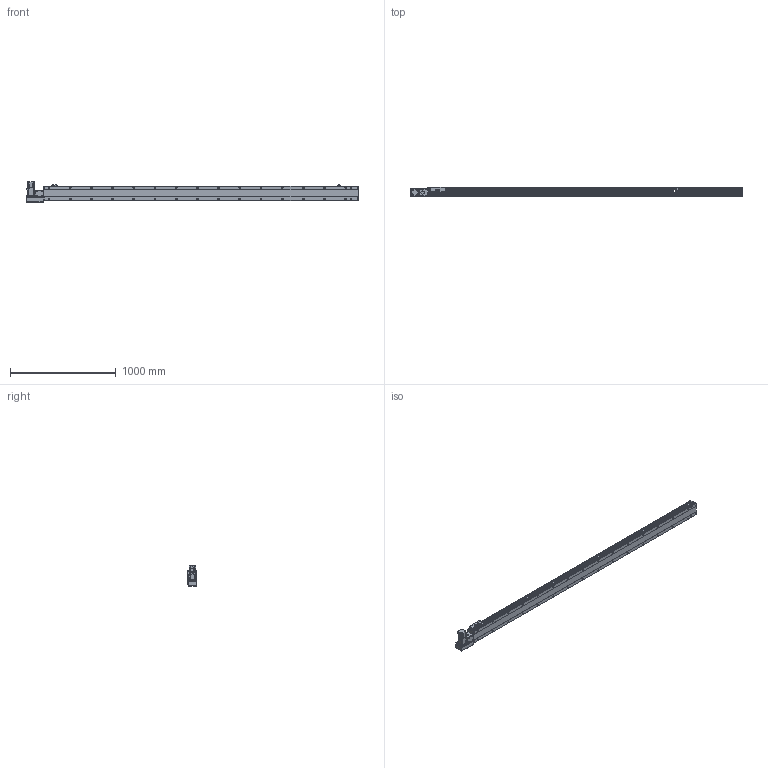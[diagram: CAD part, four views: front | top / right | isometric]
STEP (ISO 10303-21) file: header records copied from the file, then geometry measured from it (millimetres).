
FILE_DESCRIPTION( ( 'STEP AP214' ), '1' );
FILE_NAME( 'x:/temp/worker_6/temp/exporttempdir_5396_34_gnjqI/format_0/PBS140S-P40-S2700-L-T40-C1-N(0).stp', '2022-06-09T00:05:07', ( 'License CC BY-ND 4.0' ), ( 'CADENAS' ), ' ', 'PARTsolutions', ' ' );
FILE_SCHEMA( ( 'AUTOMOTIVE_DESIGN { 1 0 10303 214 1 1 1 1 }' ) );
Length unit declared in the file: millimetre
Products named in the file (7): PBS140S-P40-S2700-L-T40-C1-N(0); _PBS140S-S2700()_body; _PBS140ST-L_motors; _T40-p1; _PBS140S_sliser; _PBS140S_plant; _PBS140S_sensor
Assembly tree (8 placements, depth 2):
  PBS140S-P40-S2700-L-T40-C1-N(0)
    _PBS140S-S2700()_body
    _PBS140ST-L_motors
    _T40-p1
    _PBS140S_sliser
    _PBS140S_plant
    _PBS140S_sensor  x3
Bounding box: 3133 x 93 x 189.7 mm (x, y, z)
Volume: 14779103.6 mm3; surface area: 2486560.9 mm2
Topology: 8 solids, 8 shells, 1227 faces, 3231 edges, 2113 vertices
Faces by surface type: plane 750, cylinder 409, cone 58, sphere 8, torus 2
Full cylindrical faces by diameter (mm): 3.242 x4, 4 x2, 4.134 x4, 4.4 x8, 4.5 x2, 4.8 x4, 4.917 x40, 5.5 x7, 6 x2, 7 x34, 7.5 x8, 8 x12, 8.5 x4, 10.5 x32, 14 x1, 30 x2, 50 x2
Entity records: 45472 total; most frequent: CARTESIAN_POINT 7750, DIRECTION 5908, ORIENTED_EDGE 5542, EDGE_CURVE 2771, AXIS2_PLACEMENT_3D 2099, VERTEX_POINT 1945, LINE 1710, VECTOR 1710
